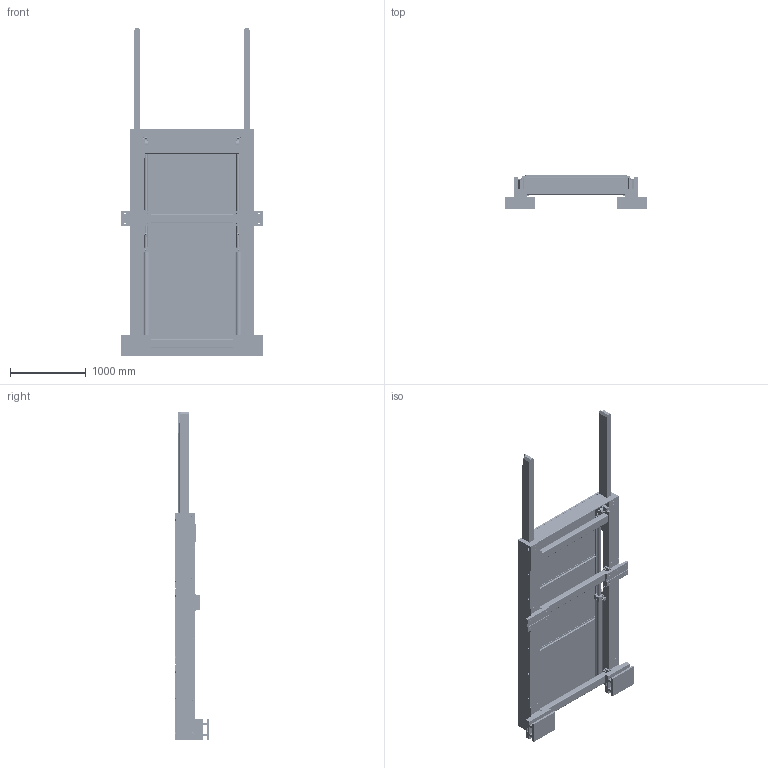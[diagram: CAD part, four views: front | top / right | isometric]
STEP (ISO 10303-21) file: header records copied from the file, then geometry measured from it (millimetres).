
FILE_DESCRIPTION (( 'STEP AP203' ), '1' );
FILE_NAME ('ÒÊ950Ô3Ò 080.000 Ðåëüñîâûé áëîê.STEP', '2017-02-01T04:52:30', ( '' ), ( '' ), 'SwSTEP 2.0', 'SolidWorks 2009', '' );
FILE_SCHEMA (( 'CONFIG_CONTROL_DESIGN' ));
Length unit declared in the file: millimetre
Products named in the file (60): ÒÊ950Ô3Ò 082.005 Ðåëüñ_ëåâûé; ÒÊ950Ô3Ò 082.006 Îïîðà_ëåâûé; ÒÊ950Ô3Ì 082.007 Ðåëüñ ïîäâèæíûé_ëåâûé; ÒÊ950Ô3Ì 081.008 Îïîðà_ëåâàÿ; ÒÊ950Ô3Ì 082.009 Ïëàíêà; ÒÊ950Ô3Ì 082.010 Ïëàíêà; ÒÊ950Ô3Ì 081.011 Êîìïåíñàòîð; 鎔艜 襞旂 11738-84_M10x25 DIN912; 鎔艜 襞旂 11738-84_M10x30 DIN912; 鎔艜 襞旂 11738-84_M16x40 DIN912; 鎔艜 襞旂 11738-84_M16x50 DIN912; 鎔艜 襞旂 11738-84_M20x80 DIN912; 鎔艜 襞旂 11738-84_M20x100 DIN912; 扻錪犩 襞旂13942-86_85 x 4; 鏡僽隬鳹鴈僽 CK-63-45-1200-E021- - B1X1; 扻豵鵨 CK-63-45-1200-E021- - B1X1; 幄鍧 CK-63-45-1200-E021- - B1X1; Ñåðüãà Ñ-14645; ﾒﾊ950ﾔ3ﾌ 083.000 ﾘ淏濱1520; ÒÊ950Ô3Ì 083.001 Ôëàíåö; ÒÊ950Ô3Ì 083.002 Ïðîôèëü_1520; ÒÊ950Ô3Ì 084.000 Îïîðà; ÒÊ950Ô3Ì 084.001 Ïëàñòèíà; ÒÊ950Ô3Ì 084.002 Ñòîéêà; ÒÊ950Ô3Ì 085.000 Êðûøêà; ÒÊ950Ô3Ì 085.100 Ðàìêà; ÒÊ950Ô3Ì 085.101 Óãîëîê_Äëèííûé 8; ÒÊ950Ô3Ì 085.102 Óãîëîê_Äëèííûé 8; ﾒﾊ950ﾔ3ﾌ 085.001 ﾋ頌6; ÒÊ950Ô3Ì 080.001 Çàùèòà; Âûêëþ÷àòåëü ÂÏ15Ê21Á-231-54Ó2.8; ﾂﾏ15ﾊ21ﾁ-231-54ﾓ2.8-3; ﾂﾏ15ﾊ21ﾁ-231-54ﾓ2.8-1; ﾂﾏ15ﾊ21ﾁ-231-54ﾓ2.8-2; 鎔艜 襞旂 11738-84_M20x50 DIN912; 鎔艜 襞旂 11738-84_M20x55 DIN912; Âèíò ÃÎÑÒ 17473-80_Âèíò A.Ì4-6gx10.88.35Õ.029 ÃÎÑÒ 17473-80; Âèíò ÃÎÑÒ 17473-80_Âèíò A.Ì5-6gx35.88.35Õ.029 ÃÎÑÒ 17473-80; Áîëò ÃÎÑÒ 7805-70_Ì8-6gx16.109.026 ÃÎÑÒ7805-70; ﾘ琺矜 ﾃﾎﾑﾒ 11371-78_ﾘ琺矜 8.01.88.019 ﾃﾎﾑﾒ11371-78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
Assembly tree (259 placements, depth 4):
  ÒÊ950Ô3Ò 080.000 Ðåëüñîâûé áëîê
    ÒÊ950Ô3Ì 084.000 Îïîðà  x2
      ÒÊ950Ô3Ì 084.002 Ñòîéêà
      ÒÊ950Ô3Ì 084.001 Ïëàñòèíà
      ÒÊ950Ô3Ì 084.001 Ïëàñòèíà
    ÒÊ950Ô3Ì 080.001 Çàùèòà
    鎔艜 襞旂 11738-84_M20x50 DIN912  x8
    Âèíò ÃÎÑÒ 17473-80_Âèíò A.Ì4-6gx10.88.35Õ.029 ÃÎÑÒ 17473-80  x4
    Âèíò ÃÎÑÒ 17473-80_Âèíò A.Ì5-6gx35.88.35Õ.029 ÃÎÑÒ 17473-80  x16
    Áîëò ÃÎÑÒ 7805-70_Ì8-6gx16.109.026 ÃÎÑÒ7805-70  x18
    ﾘ琺矜 ﾃﾎﾑﾒ 11371-78_ﾘ琺矜 8.01.88.019 ﾃﾎﾑﾒ11371-78  x18
    ÒÊ950Ô3Ì 085.000 Êðûøêà  x3
      ﾒﾊ950ﾔ3ﾌ 085.001 ﾋ頌6
      ÒÊ950Ô3Ì 085.100 Ðàìêà
        ÒÊ950Ô3Ì 085.102 Óãîëîê_Äëèííûé 8  x2
        ÒÊ950Ô3Ì 085.101 Óãîëîê_Äëèííûé 8
        ÒÊ950Ô3Ì 085.101 Óãîëîê_Äëèííûé 8
    鎔艜 襞旂 11738-84_M20x55 DIN912  x12
    Âûêëþ÷àòåëü ÂÏ15Ê21Á-231-54Ó2.8  x4
      ﾂﾏ15ﾊ21ﾁ-231-54ﾓ2.8-2
      ﾂﾏ15ﾊ21ﾁ-231-54ﾓ2.8-1
      ﾂﾏ15ﾊ21ﾁ-231-54ﾓ2.8-3
    ÒÊ950Ô3Ò 082.000 Ðåëüñ âûäâèæíîé
      ÒÊ950Ô3Ì 082.004-03 Ïëàíêà
      鎔艜 襞旂 11738-84_M10x30 DIN912  x20
      鎔艜 襞旂 11738-84_M16x50 DIN912  x4
      ÒÊ950Ô3Ì 082.009 Ïëàíêà  x3
      鎔艜 襞旂 11738-84_M16x40 DIN912  x14
      鎔艜 襞旂 11738-84_M20x50 DIN912  x8
      ÒÊ950Ô3Ì 081.004-02 Ïëàíêà
      ÒÊ950Ô3Ì 081.004-01 Ïëàíêà  x2
      扻錪犩 襞旂13942-86_85 x 4
      鎔艜 襞旂 11738-84_M10x25 DIN912  x4
      鎔艜 襞旂 11738-84_M20x100 DIN912  x3
      ÒÊ950Ô3Ì 081.008 Îïîðà_ëåâàÿ
      ÒÊ950Ô3Ì 081.003 Êîìïåíñàòîð
      ÒÊ950Ô3Ì 082.007 Ðåëüñ ïîäâèæíûé_ëåâûé
      ÒÊ950Ô3Ì 081.002 Òîëêàòåëü
      ÒÊ950Ô3Ò 082.006 Îïîðà_ëåâûé
      ÒÊ950Ô3Ì 082.001 Îïîðà_ëåâàÿ
      鎔艜 襞旂 11738-84_M20x80 DIN912  x2
      ÒÊ950Ô3Ò 082.005 Ðåëüñ_ëåâûé
      ÒÊ950Ô3Ì 081.011 Êîìïåíñàòîð
      鏡僽隬鳹鴈僽 CK-63-45-1200-E021- - B1X1
        幄鍧 CK-63-45-1200-E021- - B1X1
        扻豵鵨 CK-63-45-1200-E021- - B1X1
      ÒÊ950Ô3Ì 081.004-04 Ïëàíêà
      Ñåðüãà Ñ-14645
      ÒÊ950Ô3Ì 082.010 Ïëàíêà
    ÒÊ950Ô3Ò 081.000 Ðåëüñ âûäâèæíîé
      ÒÊ950Ô3Ì 081.003 Êîìïåíñàòîð
      鎔艜 襞旂 11738-84_M10x25 DIN912  x4
      鎔艜 襞旂 11738-84_M10x30 DIN912  x20
      鎔艜 襞旂 11738-84_M16x40 DIN912  x14
      鎔艜 襞旂 11738-84_M20x100 DIN912  x3
      ÒÊ950Ô3Ì 081.001 Îïîðà_ëåâàÿ
      ÒÊ950Ô3Ì 081.007 Ðåëüñ ïîäâèæíûé_ëåâûé
      鎔艜 襞旂 11738-84_M20x50 DIN912  x8
      ÒÊ950Ô3Ì 081.002 Òîëêàòåëü
      ÒÊ950Ô3Ò 081.006 Îïîðà_ëåâûé
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Bounding box: 1870 x 441.1 x 4330 mm (x, y, z)
Volume: 288691271.5 mm3; surface area: 30327122.3 mm2
Topology: 273 solids, 273 shells, 7814 faces, 18108 edges, 11274 vertices
Faces by surface type: plane 3098, cylinder 2244, cone 1520, torus 864, bspline 48, sphere 40
Entity records: 91268 total; most frequent: CARTESIAN_POINT 16517, DIRECTION 14041, ORIENTED_EDGE 12324, EDGE_CURVE 6162, AXIS2_PLACEMENT_3D 5437, VERTEX_POINT 3923, LINE 3167, VECTOR 3167
